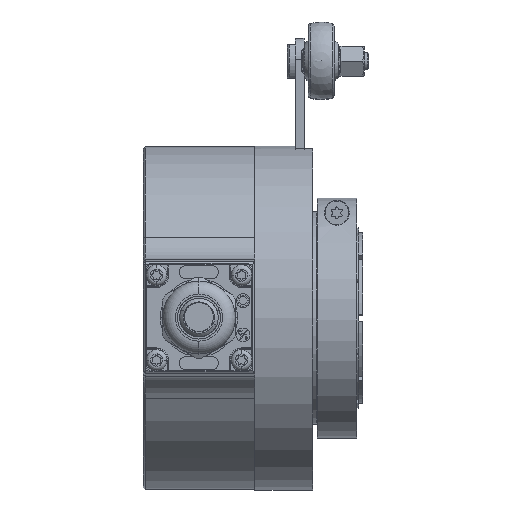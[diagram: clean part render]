
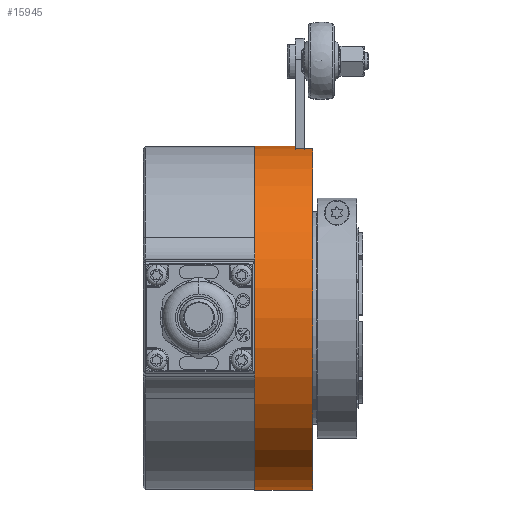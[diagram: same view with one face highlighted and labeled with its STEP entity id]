
A CAD part, top view. The second image highlights one B-rep face of the part: STEP entity #15945.
In plain terms, the highlighted cylindrical face has radius 40.075 mm (diameter 80.15 mm), a partial arc.
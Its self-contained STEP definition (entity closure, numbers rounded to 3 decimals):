
#478 = EDGE_CURVE ( 'NONE', #26877, #23395, #29000, .T. ) ;
#1231 = CARTESIAN_POINT ( 'NONE',  ( -12.775, 0., 0. ) ) ;
#2190 = DIRECTION ( 'NONE',  ( -1., 0., 0. ) ) ;
#2609 = CARTESIAN_POINT ( 'NONE',  ( 13.5, -40.075, 0. ) ) ;
#2941 = DIRECTION ( 'NONE',  ( 0., 1., 0. ) ) ;
#3183 = EDGE_CURVE ( 'NONE', #20922, #20079, #31765, .T. ) ;
#3381 = DIRECTION ( 'NONE',  ( -1., 0., 0. ) ) ;
#4155 = AXIS2_PLACEMENT_3D ( 'NONE', #27978, #25250, #6472 ) ;
#5789 = CARTESIAN_POINT ( 'NONE',  ( 0., 40.075, 0. ) ) ;
#6244 = EDGE_CURVE ( 'NONE', #11156, #20922, #20254, .T. ) ;
#6265 = ORIENTED_EDGE ( 'NONE', *, *, #27543, .T. ) ;
#6472 = DIRECTION ( 'NONE',  ( 0., 1., 0. ) ) ;
#6534 = DIRECTION ( 'NONE',  ( -1., 0., 0. ) ) ;
#7165 = DIRECTION ( 'NONE',  ( 0., 1., 0. ) ) ;
#7263 = DIRECTION ( 'NONE',  ( -1., 0., 0. ) ) ;
#8078 = CARTESIAN_POINT ( 'NONE',  ( 13.5, 39.468, 6.95 ) ) ;
#8148 = ORIENTED_EDGE ( 'NONE', *, *, #19684, .T. ) ;
#8345 = DIRECTION ( 'NONE',  ( -1., 0., 0. ) ) ;
#8602 = DIRECTION ( 'NONE',  ( 0., 1., 0. ) ) ;
#10004 = ORIENTED_EDGE ( 'NONE', *, *, #10827, .T. ) ;
#10395 = CARTESIAN_POINT ( 'NONE',  ( -12.775, 40.075, 0. ) ) ;
#10827 = EDGE_CURVE ( 'NONE', #23395, #20079, #20985, .T. ) ;
#11050 = AXIS2_PLACEMENT_3D ( 'NONE', #28159, #2190, #7165 ) ;
#11148 = VERTEX_POINT ( 'NONE', #8078 ) ;
#11156 = VERTEX_POINT ( 'NONE', #2609 ) ;
#14318 = ORIENTED_EDGE ( 'NONE', *, *, #478, .T. ) ;
#15428 = ORIENTED_EDGE ( 'NONE', *, *, #6244, .F. ) ;
#15945 = ADVANCED_FACE ( 'NONE', ( #32306 ), #32142, .T. ) ;
#15947 = DIRECTION ( 'NONE',  ( -1., 0., 0. ) ) ;
#16204 = LINE ( 'NONE', #26621, #29543 ) ;
#16285 = CARTESIAN_POINT ( 'NONE',  ( 9.5, 39.468, 6.95 ) ) ;
#17106 = VECTOR ( 'NONE', #8345, 1000. ) ;
#17829 = CARTESIAN_POINT ( 'NONE',  ( -12.775, -40.075, 0. ) ) ;
#18074 = CARTESIAN_POINT ( 'NONE',  ( 9.5, 40.075, 0. ) ) ;
#18661 = CARTESIAN_POINT ( 'NONE',  ( 9.5, 0., 0. ) ) ;
#18970 = AXIS2_PLACEMENT_3D ( 'NONE', #1231, #6534, #8602 ) ;
#19684 = EDGE_CURVE ( 'NONE', #11148, #26877, #16204, .T. ) ;
#20079 = VERTEX_POINT ( 'NONE', #5789 ) ;
#20254 = LINE ( 'NONE', #17829, #22412 ) ;
#20922 = VERTEX_POINT ( 'NONE', #26719 ) ;
#20985 = LINE ( 'NONE', #10395, #17106 ) ;
#21616 = CIRCLE ( 'NONE', #4155, 40.075 ) ;
#22412 = VECTOR ( 'NONE', #7263, 1000. ) ;
#23043 = EDGE_LOOP ( 'NONE', ( #15428, #6265, #8148, #14318, #10004, #25776 ) ) ;
#23395 = VERTEX_POINT ( 'NONE', #18074 ) ;
#24110 = AXIS2_PLACEMENT_3D ( 'NONE', #18661, #15947, #2941 ) ;
#25250 = DIRECTION ( 'NONE',  ( -1., 0., 0. ) ) ;
#25776 = ORIENTED_EDGE ( 'NONE', *, *, #3183, .F. ) ;
#26621 = CARTESIAN_POINT ( 'NONE',  ( -12.775, 39.468, 6.95 ) ) ;
#26719 = CARTESIAN_POINT ( 'NONE',  ( 0., -40.075, 0. ) ) ;
#26877 = VERTEX_POINT ( 'NONE', #16285 ) ;
#27543 = EDGE_CURVE ( 'NONE', #11156, #11148, #21616, .T. ) ;
#27978 = CARTESIAN_POINT ( 'NONE',  ( 13.5, 0., 0. ) ) ;
#28159 = CARTESIAN_POINT ( 'NONE',  ( 0., 0., 0. ) ) ;
#29000 = CIRCLE ( 'NONE', #24110, 40.075 ) ;
#29543 = VECTOR ( 'NONE', #3381, 1000. ) ;
#31765 = CIRCLE ( 'NONE', #11050, 40.075 ) ;
#32142 = CYLINDRICAL_SURFACE ( 'NONE', #18970, 40.075 ) ;
#32306 = FACE_OUTER_BOUND ( 'NONE', #23043, .T. ) ;
